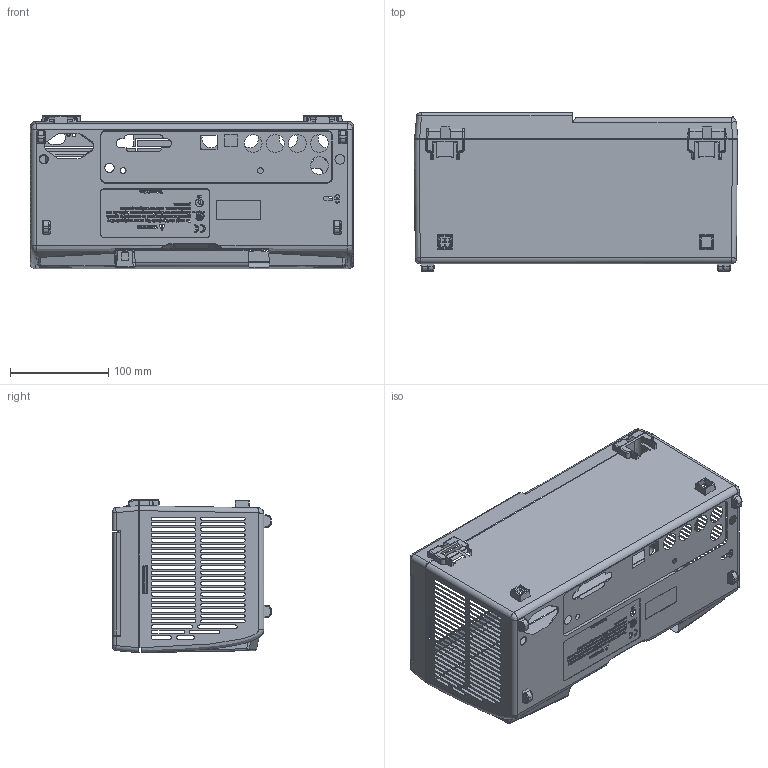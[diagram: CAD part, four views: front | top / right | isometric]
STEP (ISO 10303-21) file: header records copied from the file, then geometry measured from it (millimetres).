
FILE_DESCRIPTION((''),'2;1');
FILE_NAME('PRT0001','2009-09-16T',('gyin'),(''),'PRO/ENGINEER BY PARAMETRIC TECHNOLOGY CORPORATION, 2007460','PRO/ENGINEER BY PARAMETRIC TECHNOLOGY CORPORATION, 2007460','');
FILE_SCHEMA(('CONFIG_CONTROL_DESIGN'));
Length unit declared in the file: inch
Products named in the file (1): PRT0001
Bounding box: 329.98 x 161.78 x 156.34 mm (x, y, z)
Surface area: 196078.8 mm2 (no closed solid volume)
Topology: 0 solids, 117 shells, 385 faces, 3630 edges, 3350 vertices
Faces by surface type: plane 199, cylinder 117, bspline 54, sphere 9, torus 4, extrusion 2
Entity records: 42204 total; most frequent: CARTESIAN_POINT 19047, ORIENTED_EDGE 4155, EDGE_CURVE 3630, VERTEX_POINT 3351, DIRECTION 3328, VECTOR 2068, LINE 2066, B_SPLINE_CURVE_WITH_KNOTS 1265
